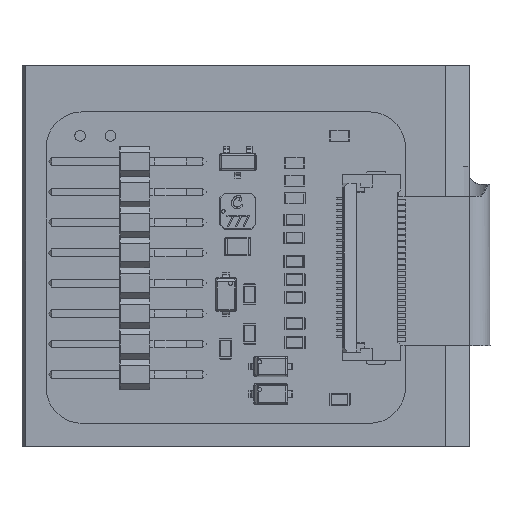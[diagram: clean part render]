
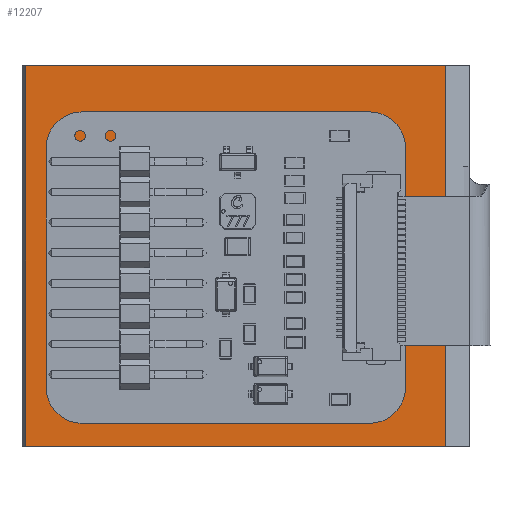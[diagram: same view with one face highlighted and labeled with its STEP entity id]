
A CAD part, top view. The second image highlights one B-rep face of the part: STEP entity #12207.
In plain terms, the highlighted planar face has unit normal (0, 0, 1) as drawn and (1, 0, 0) by its records, which use the part's own axes.
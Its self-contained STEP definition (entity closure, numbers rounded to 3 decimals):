
#3518 = CARTESIAN_POINT ( 'NONE',  ( 1.05, 0., 0. ) ) ;
#5042 = ORIENTED_EDGE ( 'NONE', *, *, #123987, .T. ) ;
#9847 = EDGE_CURVE ( 'NONE', #22243, #78709, #127317, .T. ) ;
#10122 = DIRECTION ( 'NONE',  ( 0., 1., 0. ) ) ;
#12207 = ADVANCED_FACE ( 'NONE', ( #14119 ), #100224, .T. ) ;
#13061 = LINE ( 'NONE', #131648, #108367 ) ;
#14119 = FACE_OUTER_BOUND ( 'NONE', #83842, .T. ) ;
#15407 = CARTESIAN_POINT ( 'NONE',  ( 1.05, -16.66, -15.9 ) ) ;
#20339 = DIRECTION ( 'NONE',  ( 0., -1., 0. ) ) ;
#20655 = AXIS2_PLACEMENT_3D ( 'NONE', #3518, #98827, #89587 ) ;
#22243 = VERTEX_POINT ( 'NONE', #15407 ) ;
#24367 = CARTESIAN_POINT ( 'NONE',  ( 1.05, -16.66, 15.9 ) ) ;
#28335 = EDGE_CURVE ( 'NONE', #78709, #76515, #13061, .T. ) ;
#39667 = LINE ( 'NONE', #94006, #122420 ) ;
#48861 = DIRECTION ( 'NONE',  ( 0., 0., -1. ) ) ;
#56817 = VECTOR ( 'NONE', #10122, 1000. ) ;
#64780 = CARTESIAN_POINT ( 'NONE',  ( 1.05, 18.36, 15.9 ) ) ;
#70002 = CARTESIAN_POINT ( 'NONE',  ( 1.05, 18.36, -15.9 ) ) ;
#71044 = CARTESIAN_POINT ( 'NONE',  ( 1.05, 18.36, -15.9 ) ) ;
#76515 = VERTEX_POINT ( 'NONE', #64780 ) ;
#78709 = VERTEX_POINT ( 'NONE', #70002 ) ;
#83842 = EDGE_LOOP ( 'NONE', ( #91211, #5042, #115765, #134189 ) ) ;
#89587 = DIRECTION ( 'NONE',  ( 0., 0., -1. ) ) ;
#91211 = ORIENTED_EDGE ( 'NONE', *, *, #111294, .T. ) ;
#94006 = CARTESIAN_POINT ( 'NONE',  ( 1.05, -16.66, 15.9 ) ) ;
#98827 = DIRECTION ( 'NONE',  ( 1., 0., 0. ) ) ;
#100224 = PLANE ( 'NONE',  #20655 ) ;
#108367 = VECTOR ( 'NONE', #123805, 1000. ) ;
#111294 = EDGE_CURVE ( 'NONE', #76515, #112709, #117022, .T. ) ;
#112709 = VERTEX_POINT ( 'NONE', #24367 ) ;
#115765 = ORIENTED_EDGE ( 'NONE', *, *, #9847, .T. ) ;
#117022 = LINE ( 'NONE', #117727, #138278 ) ;
#117727 = CARTESIAN_POINT ( 'NONE',  ( 1.05, 18.36, 15.9 ) ) ;
#122420 = VECTOR ( 'NONE', #48861, 1000. ) ;
#123805 = DIRECTION ( 'NONE',  ( 0., 0., 1. ) ) ;
#123987 = EDGE_CURVE ( 'NONE', #112709, #22243, #39667, .T. ) ;
#127317 = LINE ( 'NONE', #71044, #56817 ) ;
#131648 = CARTESIAN_POINT ( 'NONE',  ( 1.05, 18.36, 15.9 ) ) ;
#134189 = ORIENTED_EDGE ( 'NONE', *, *, #28335, .T. ) ;
#138278 = VECTOR ( 'NONE', #20339, 1000. ) ;
